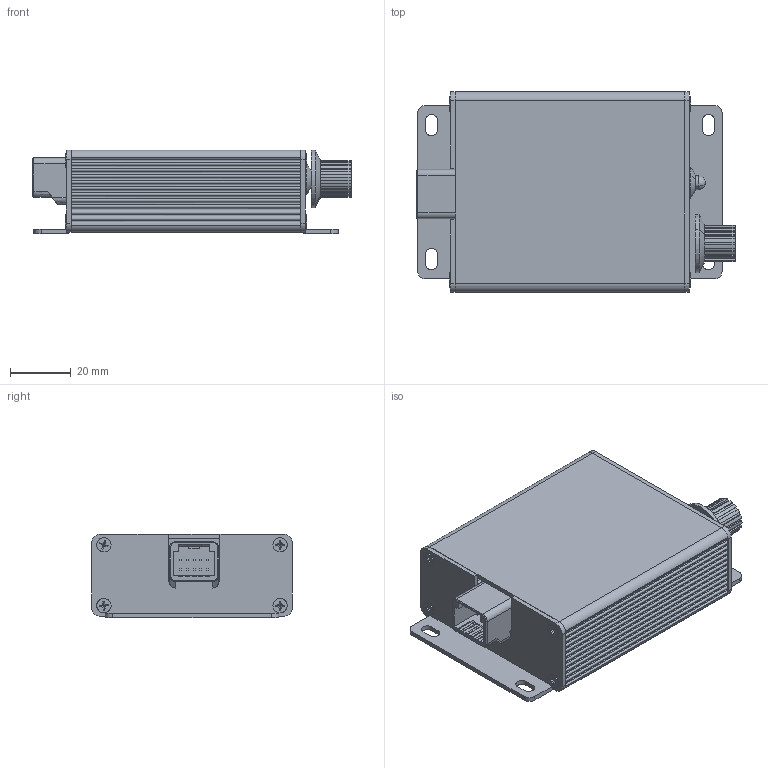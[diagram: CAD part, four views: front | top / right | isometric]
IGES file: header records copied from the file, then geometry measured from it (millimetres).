
Start section: START RECORD GO HERE.
Global section: file name: EC10_ACB_with_SW.igs; native system: DASSAULT SYSTEMES CATIA Version 5-6 Release 2017 - www.3ds.com; preprocessor: V5-6R2017_5.27.0.0.10-19-2016.20.00; author: kani; organization: ARJ-D3; date: 20211124.231615; units: millimetre
Bounding box: 104.51 x 66 x 27.5 mm (x, y, z)
Volume: 34445.1 mm3; surface area: 48423.6 mm2
Topology: 13 solids, 14 shells, 909 faces, 2466 edges, 2251 vertices
Faces by surface type: plane 640, revolution 269
